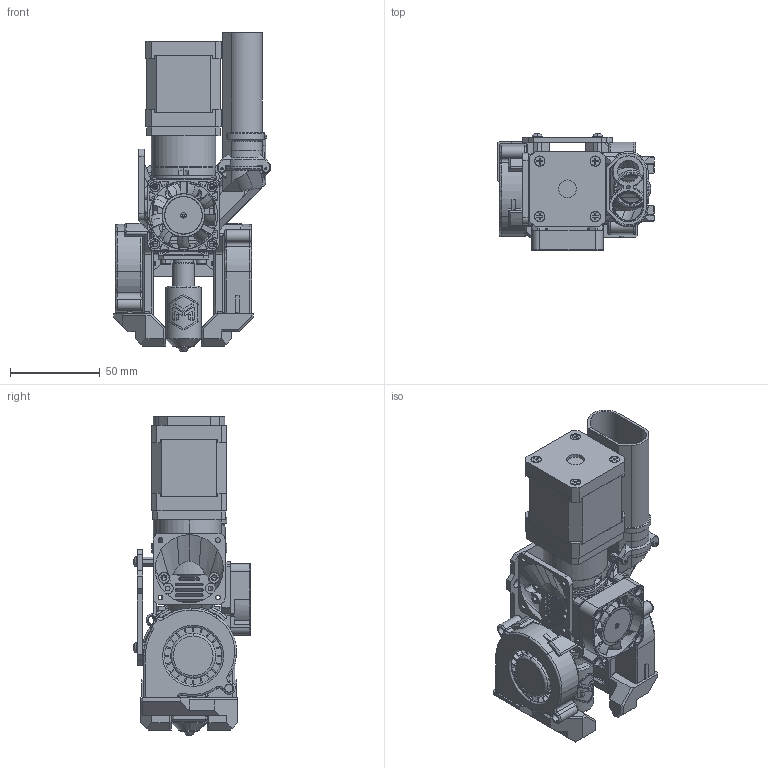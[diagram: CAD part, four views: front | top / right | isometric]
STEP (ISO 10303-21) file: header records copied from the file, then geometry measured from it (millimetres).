
FILE_DESCRIPTION(/* description */ (''),/* implementation_level */ '2;1');
FILE_NAME(/* name */ 'CAD v5',/* time_stamp */ '2025-02-25T17:53:13+01:00',/* author */ (''),/* organization */ (''),/* preprocessor_version */ 'ST-DEVELOPER v19.2',/* originating_system */ 'Rhino 8.16',/* authorisation */ '');
FILE_SCHEMA (('CONFIG_CONTROL_DESIGN'));
Products named in the file (25): Document; 342836; din_7991_M3x6 01; 655030; iso-7380_M3x6; brass ex pillar M3x6; 405402; din-912_M3x8; 0220; 282802; nut12x1; siliconHR; 081320; 40side; 60grid; 61grid; 72hop; 73HOP; FAN4010; M3nut; 40FRONT; BLOW5015; layerfan; 74hop
Bounding box: 87.5 x 64.88 x 178 mm (x, y, z)
Volume: 266913.7 mm3; surface area: 202884.5 mm2
Topology: 69 solids, 73 shells, 4630 faces, 12078 edges, 7633 vertices
Faces by surface type: plane 2204, cylinder 1376, bspline 1050
Full cylindrical faces by diameter (mm): 3.2 x10
Entity records: 164323 total; most frequent: CARTESIAN_POINT 79028, ORIENTED_EDGE 21060, EDGE_CURVE 10542, DIRECTION 9438, VERTEX_POINT 6695, B_SPLINE_CURVE_WITH_KNOTS 6439, AXIS2_PLACEMENT_3D 6276, EDGE_LOOP 4544
